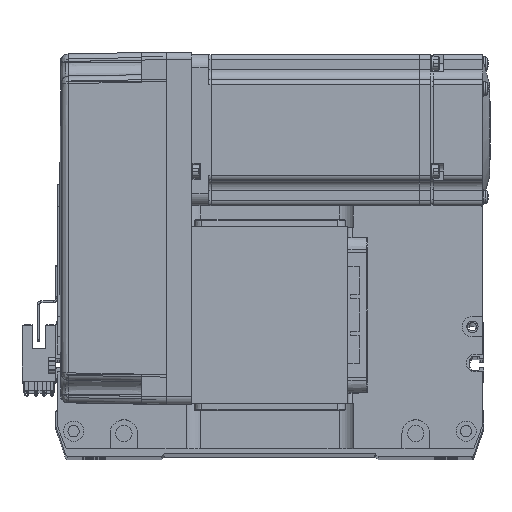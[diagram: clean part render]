
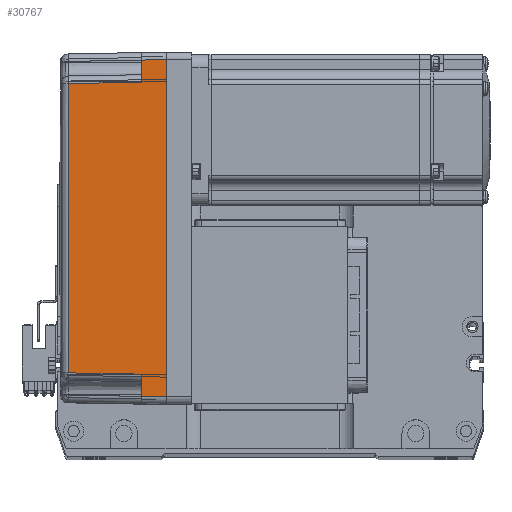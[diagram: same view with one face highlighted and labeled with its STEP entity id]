
A CAD part, top view. The second image highlights one B-rep face of the part: STEP entity #30767.
In plain terms, the highlighted planar face has unit normal (-0.018, 0, 1) as drawn and (0, 1, 0.017) by its records, which use the part's own axes.
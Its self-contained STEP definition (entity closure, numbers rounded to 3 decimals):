
#1901 = CARTESIAN_POINT ( 'NONE',  ( 19.165, 35.316, 39.181 ) ) ;
#2910 = DIRECTION ( 'NONE',  ( 0.017, 0.017, -1. ) ) ;
#3198 = CARTESIAN_POINT ( 'NONE',  ( -57.495, 35.32, 38.985 ) ) ;
#3281 = CARTESIAN_POINT ( 'NONE',  ( -58., 35.825, 10. ) ) ;
#3604 = VERTEX_POINT ( 'NONE', #3281 ) ;
#9445 = EDGE_CURVE ( 'NONE', #9788, #57765, #49690, .T. ) ;
#9788 = VERTEX_POINT ( 'NONE', #22793 ) ;
#10468 = EDGE_CURVE ( 'NONE', #20721, #40116, #25471, .T. ) ;
#11086 = ORIENTED_EDGE ( 'NONE', *, *, #33521, .T. ) ;
#11459 = EDGE_CURVE ( 'NONE', #3604, #20721, #38965, .T. ) ;
#12242 = AXIS2_PLACEMENT_3D ( 'NONE', #23233, #51840, #23039 ) ;
#14840 = VECTOR ( 'NONE', #27561, 1000. ) ;
#15032 = VECTOR ( 'NONE', #57462, 1000. ) ;
#15619 = ORIENTED_EDGE ( 'NONE', *, *, #43479, .F. ) ;
#16375 = CARTESIAN_POINT ( 'NONE',  ( -57.495, 35.32, 38.985 ) ) ;
#16549 = LINE ( 'NONE', #61478, #15032 ) ;
#17801 = CARTESIAN_POINT ( 'NONE',  ( -66.826, 35.825, 10. ) ) ;
#17882 = VECTOR ( 'NONE', #35998, 1000. ) ;
#20372 = VECTOR ( 'NONE', #53940, 1000. ) ;
#20635 = CARTESIAN_POINT ( 'NONE',  ( 57.495, 35.32, 38.985 ) ) ;
#20721 = VERTEX_POINT ( 'NONE', #3198 ) ;
#20822 = CARTESIAN_POINT ( 'NONE',  ( 58., 35.825, 10. ) ) ;
#22793 = CARTESIAN_POINT ( 'NONE',  ( -67., 36., 0. ) ) ;
#22927 = CARTESIAN_POINT ( 'NONE',  ( -58., 35.825, 10. ) ) ;
#23039 = DIRECTION ( 'NONE',  ( 0., -0.017, 1. ) ) ;
#23233 = CARTESIAN_POINT ( 'NONE',  ( 70., 36., 0. ) ) ;
#24621 = LINE ( 'NONE', #31287, #17882 ) ;
#25011 = CARTESIAN_POINT ( 'NONE',  ( 66.826, 35.825, 10. ) ) ;
#25471 = B_SPLINE_CURVE_WITH_KNOTS ( 'NONE', 3,
 ( #16375, #44365, #1901, #49168 ),
 .UNSPECIFIED., .F., .F.,
 ( 4, 4 ),
 ( 0., 1. ),
 .UNSPECIFIED. ) ;
#27561 = DIRECTION ( 'NONE',  ( 0.017, -0.017, 1. ) ) ;
#28067 = EDGE_CURVE ( 'NONE', #40116, #37162, #40709, .T. ) ;
#29170 = EDGE_LOOP ( 'NONE', ( #11086, #32365, #47317, #30327, #41855, #44193, #15619, #38344 ) ) ;
#29571 = LINE ( 'NONE', #52154, #54448 ) ;
#30042 = CARTESIAN_POINT ( 'NONE',  ( 67., 36., 0. ) ) ;
#30327 = ORIENTED_EDGE ( 'NONE', *, *, #10468, .T. ) ;
#30767 = ADVANCED_FACE ( 'NONE', ( #36040 ), #42208, .T. ) ;
#31287 = CARTESIAN_POINT ( 'NONE',  ( 67.001, 36.001, -0.052 ) ) ;
#32365 = ORIENTED_EDGE ( 'NONE', *, *, #58546, .T. ) ;
#33521 = EDGE_CURVE ( 'NONE', #9788, #40863, #29571, .T. ) ;
#35998 = DIRECTION ( 'NONE',  ( -0.017, -0.017, 1. ) ) ;
#36040 = FACE_OUTER_BOUND ( 'NONE', #29170, .T. ) ;
#36085 = EDGE_CURVE ( 'NONE', #37162, #43266, #37633, .T. ) ;
#37162 = VERTEX_POINT ( 'NONE', #20822 ) ;
#37633 = LINE ( 'NONE', #39928, #60910 ) ;
#38344 = ORIENTED_EDGE ( 'NONE', *, *, #9445, .F. ) ;
#38965 = LINE ( 'NONE', #22927, #14840 ) ;
#39928 = CARTESIAN_POINT ( 'NONE',  ( 70., 35.825, 10. ) ) ;
#40116 = VERTEX_POINT ( 'NONE', #20635 ) ;
#40709 = LINE ( 'NONE', #45367, #42192 ) ;
#40863 = VERTEX_POINT ( 'NONE', #17801 ) ;
#41855 = ORIENTED_EDGE ( 'NONE', *, *, #28067, .T. ) ;
#42192 = VECTOR ( 'NONE', #2910, 1000. ) ;
#42208 = PLANE ( 'NONE',  #12242 ) ;
#43266 = VERTEX_POINT ( 'NONE', #25011 ) ;
#43479 = EDGE_CURVE ( 'NONE', #57765, #43266, #24621, .T. ) ;
#44193 = ORIENTED_EDGE ( 'NONE', *, *, #36085, .T. ) ;
#44365 = CARTESIAN_POINT ( 'NONE',  ( -19.165, 35.316, 39.181 ) ) ;
#45367 = CARTESIAN_POINT ( 'NONE',  ( 57.495, 35.32, 38.985 ) ) ;
#47317 = ORIENTED_EDGE ( 'NONE', *, *, #11459, .T. ) ;
#49168 = CARTESIAN_POINT ( 'NONE',  ( 57.495, 35.32, 38.985 ) ) ;
#49690 = LINE ( 'NONE', #53516, #20372 ) ;
#51840 = DIRECTION ( 'NONE',  ( 0., 1., 0.017 ) ) ;
#52154 = CARTESIAN_POINT ( 'NONE',  ( -67., 36., 0. ) ) ;
#53516 = CARTESIAN_POINT ( 'NONE',  ( 0., 36., 0. ) ) ;
#53940 = DIRECTION ( 'NONE',  ( 1., 0., 0. ) ) ;
#54448 = VECTOR ( 'NONE', #61176, 1000. ) ;
#57462 = DIRECTION ( 'NONE',  ( 1., 0., 0. ) ) ;
#57765 = VERTEX_POINT ( 'NONE', #30042 ) ;
#58546 = EDGE_CURVE ( 'NONE', #40863, #3604, #16549, .T. ) ;
#59183 = DIRECTION ( 'NONE',  ( 1., 0., 0. ) ) ;
#60910 = VECTOR ( 'NONE', #59183, 1000. ) ;
#61176 = DIRECTION ( 'NONE',  ( 0.017, -0.017, 1. ) ) ;
#61478 = CARTESIAN_POINT ( 'NONE',  ( 70., 35.825, 10. ) ) ;
